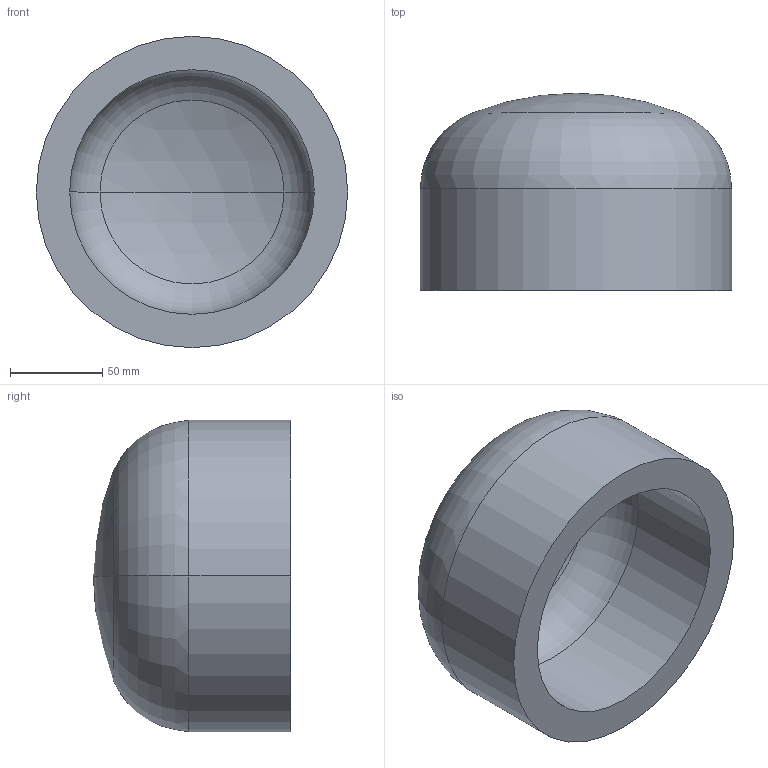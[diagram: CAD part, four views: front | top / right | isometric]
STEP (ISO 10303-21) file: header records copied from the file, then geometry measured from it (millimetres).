
FILE_DESCRIPTION (( 'STEP AP203' ), '1' );
FILE_NAME ('DIN 28013 Korbbogenform_-_Boden DIN 28013 - 168,3 x 55 - I - s=18.step', '2016-07-01T07:42:03', ( '' ), ( '' ), 'SwSTEP 2.0', 'SolidWorks 2013', '' );
FILE_SCHEMA (( 'CONFIG_CONTROL_DESIGN' ));
Length unit declared in the file: millimetre
Products named in the file (1): DIN 28013 Korbbogenform_-_Boden DIN 28013 - 168,3 x 55 - I - s=18
Bounding box: 168.3 x 106.66 x 168.3 mm (x, y, z)
Volume: 953904.5 mm3; surface area: 115167.2 mm2
Topology: 1 solids, 1 shells, 13 faces, 24 edges, 14 vertices
Faces by surface type: torus 4, cylinder 4, sphere 4, plane 1
Entity records: 407 total; most frequent: DIRECTION 72, CARTESIAN_POINT 52, ORIENTED_EDGE 48, AXIS2_PLACEMENT_3D 34, EDGE_CURVE 24, CIRCLE 20, VERTEX_POINT 14, EDGE_LOOP 14
